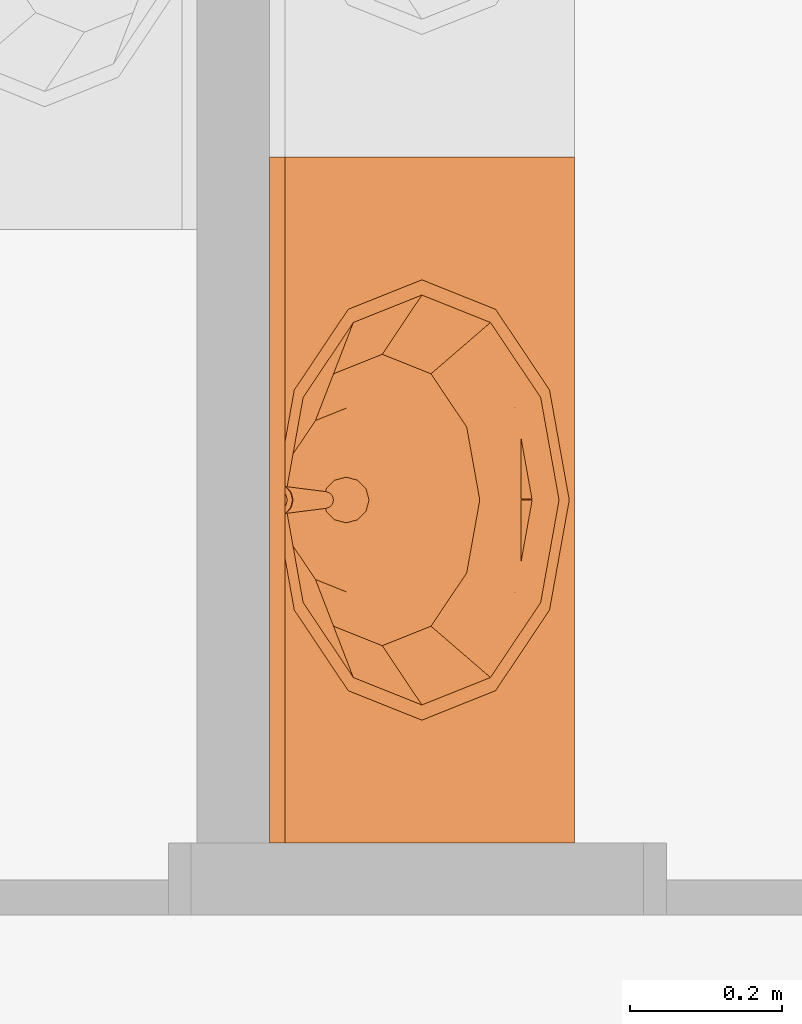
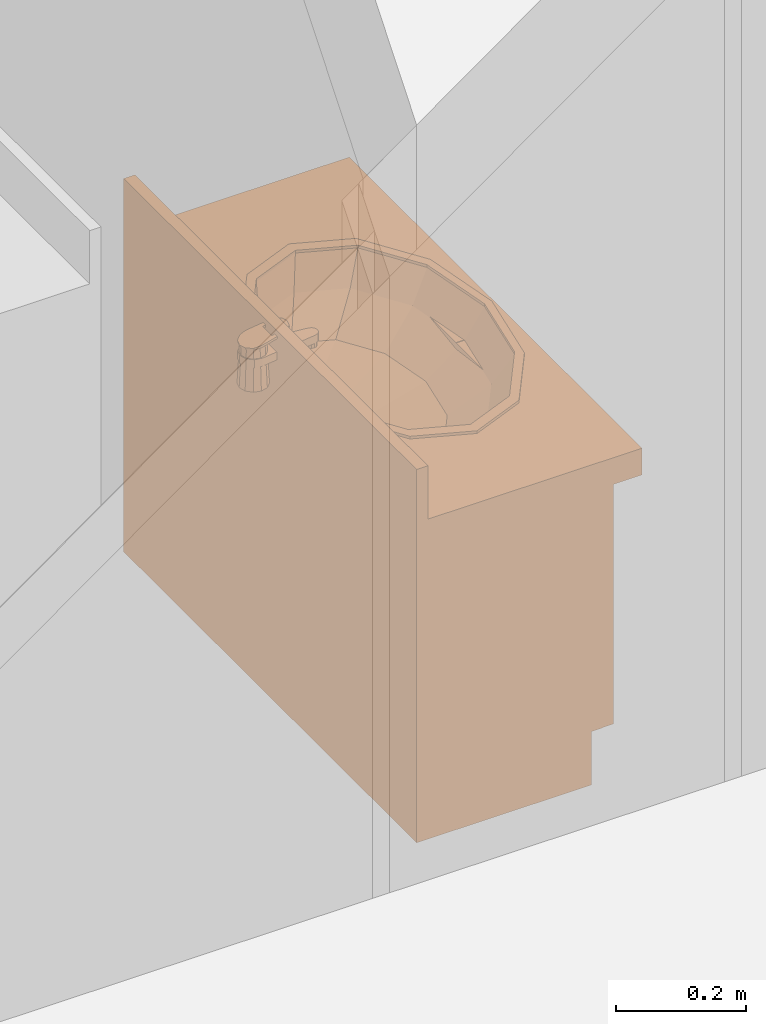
# One storey, part 11 of 14: 1 proxy.
"""IFC2X3 building model written with IfcOpenShell, lengths in millimetres."""

from ifc_helpers import new_model, entity, si_unit, converted_unit, direction, frame, origin_with_axes, place, context, project, spatial, open_shell, faceted_brep, surface_model, material, element, save


model = new_model("IFC2X3")

# Units and contexts
model_context = context("Model", 3, precision=1e-05, world=origin_with_axes(), true_north=direction((0.0, 1.0)))
ifc_project = project(units=[si_unit("LENGTHUNIT", "METRE", prefix="MILLI"), si_unit("AREAUNIT", "SQUARE_METRE"), si_unit("VOLUMEUNIT", "CUBIC_METRE"), converted_unit("PLANEANGLEUNIT", "DEGREE", entity("IfcPlaneAngleMeasure", 0.017453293), si_unit("PLANEANGLEUNIT", "RADIAN"), dimensions=[0, 0, 0, 0, 0, 0, 0]), si_unit("SOLIDANGLEUNIT", "STERADIAN"), si_unit("MASSUNIT", "GRAM"), si_unit("TIMEUNIT", "SECOND"), si_unit("THERMODYNAMICTEMPERATUREUNIT", "DEGREE_CELSIUS"), si_unit("LUMINOUSINTENSITYUNIT", "LUMEN")], contexts=[model_context])

# Site, building, storey
site_placement = place(None, origin_with_axes())
site = spatial("IfcSite", under=ifc_project, at=site_placement, Name="\x83T\x83C\x83g", CompositionType="ELEMENT")
building_placement = place(site_placement, origin_with_axes())
building = spatial("IfcBuilding", under=site, at=building_placement, Name="Daitec-Sample 201208", CompositionType="ELEMENT")
storey_placement = place(building_placement, frame((0.0, 0.0, 4000.0), z_axis=(0.0, 0.0, 1.0), x_axis=(1.0, 0.0, 0.0)))
storey = spatial("IfcBuildingStorey", under=building, at=storey_placement, Name="2F", CompositionType="ELEMENT", Elevation=4000.0)

# Proxy
ifc_material = material(Name="\x94w\x8ci")
proxy_placement = place(storey_placement, frame((21445.071, 21395.126, 0.0), z_axis=(0.0, 0.0, 1.0), x_axis=(0.0, 1.0, 0.0)))
element("IfcBuildingElementProxy", 1, at=proxy_placement, inside=storey, material=ifc_material, Name="O2", context=model_context, shape_type="Brep", body=[
    faceted_brep([(0.0, 90.0, 0.0), (0.0, 90.0, 100.0), (-900.0, 90.0, 100.0), (-900.0, 90.0, 0.0), (0.0, 400.0, 0.0), (0.0, 400.0, 100.0), (-900.0, 400.0, 100.0), (-900.0, 400.0, 0.0)], [[[0, 1, 2, 3]], [[4, 5, 1, 0]], [[1, 5, 6, 2]], [[3, 2, 6, 7]], [[0, 3, 7, 4]], [[7, 6, 5, 4]]]),
    faceted_brep([(0.0, 70.0, 100.0), (0.0, 70.0, 120.0), (-20.0, 70.0, 120.0), (-20.0, 70.0, 100.0), (0.0, 400.0, 100.0), (0.0, 400.0, 120.0), (-20.0, 400.0, 120.0), (-880.0, 400.0, 120.0), (-900.0, 400.0, 120.0), (-900.0, 70.0, 120.0), (-880.0, 70.0, 120.0), (-880.0, 70.0, 100.0), (-900.0, 70.0, 100.0), (-900.0, 400.0, 100.0), (-880.0, 400.0, 100.0), (-20.0, 400.0, 100.0)], [[[0, 1, 2, 3]], [[4, 5, 1, 0]], [[1, 5, 6, 7, 8, 9, 10, 2]], [[3, 2, 10, 11]], [[0, 3, 11, 12, 13, 14, 15, 4]], [[15, 6, 5, 4]], [[14, 7, 6, 15]], [[13, 8, 7, 14]], [[12, 9, 8, 13]], [[11, 10, 9, 12]]]),
    faceted_brep([(0.0, 70.0, 120.0), (0.0, 70.0, 550.0), (-20.0, 70.0, 550.0), (-20.0, 70.0, 120.0), (0.0, 400.0, 120.0), (0.0, 400.0, 550.0), (-900.0, 400.0, 550.0), (-900.0, 70.0, 550.0), (-880.0, 70.0, 550.0), (-880.0, 380.0, 550.0), (-20.0, 380.0, 550.0), (-20.0, 380.0, 120.0), (-880.0, 380.0, 120.0), (-880.0, 70.0, 120.0), (-900.0, 70.0, 120.0), (-900.0, 400.0, 120.0)], [[[0, 1, 2, 3]], [[4, 5, 1, 0]], [[1, 5, 6, 7, 8, 9, 10, 2]], [[3, 2, 10, 11]], [[0, 3, 11, 12, 13, 14, 15, 4]], [[15, 6, 5, 4]], [[14, 7, 6, 15]], [[13, 8, 7, 14]], [[12, 9, 8, 13]], [[11, 10, 9, 12]]]),
    faceted_brep([(-880.0, 70.0, 223.33333), (-880.0, 70.0, 243.33333), (-880.0, 380.0, 243.33333), (-880.0, 380.0, 223.33333), (-20.0, 70.0, 223.33333), (-20.0, 70.0, 243.33333), (-20.0, 380.0, 243.33333), (-20.0, 380.0, 223.33333)], [[[0, 1, 2, 3]], [[4, 5, 1, 0]], [[1, 5, 6, 2]], [[3, 2, 6, 7]], [[0, 3, 7, 4]], [[7, 6, 5, 4]]]),
    faceted_brep([(-880.0, 70.0, 366.66667), (-880.0, 70.0, 386.66667), (-880.0, 380.0, 386.66667), (-880.0, 380.0, 366.66667), (-20.0, 70.0, 366.66667), (-20.0, 70.0, 386.66667), (-20.0, 380.0, 386.66667), (-20.0, 380.0, 366.66667)], [[[0, 1, 2, 3]], [[4, 5, 1, 0]], [[1, 5, 6, 2]], [[3, 2, 6, 7]], [[0, 3, 7, 4]], [[7, 6, 5, 4]]]),
    faceted_brep([(0.0, 400.0, 550.0), (0.0, 0.0, 550.0), (-900.0, 0.0, 550.0), (-900.0, 400.0, 550.0), (-683.82686, 110.0, 550.0), (-585.0, 44.115427, 550.0), (-450.0, 20.0, 550.0), (-315.0, 44.115427, 550.0), (-216.17314, 110.0, 550.0), (-180.0, 200.0, 550.0), (-216.17314, 290.0, 550.0), (-315.0, 355.88457, 550.0), (-450.0, 380.0, 550.0), (-585.0, 355.88457, 550.0), (-683.82686, 290.0, 550.0), (-720.0, 200.0, 550.0), (0.0, 400.0, 600.0), (0.0, 0.0, 600.0), (-900.0, 0.0, 600.0), (-900.0, 400.0, 600.0), (-683.82686, 110.0, 600.0), (-585.0, 44.115427, 600.0), (-450.0, 20.0, 600.0), (-315.0, 44.115427, 600.0), (-216.17314, 110.0, 600.0), (-180.0, 200.0, 600.0), (-216.17314, 290.0, 600.0), (-315.0, 355.88457, 600.0), (-450.0, 380.0, 600.0), (-585.0, 355.88457, 600.0), (-683.82686, 290.0, 600.0), (-720.0, 200.0, 600.0)], [[[0, 1, 2, 3], [4, 5, 6, 7, 8, 9, 10, 11, 12, 13, 14, 15]], [[1, 0, 16, 17]], [[2, 1, 17, 18]], [[3, 2, 18, 19]], [[0, 3, 19, 16]], [[20, 21, 5, 4]], [[21, 22, 6, 5]], [[22, 23, 7, 6]], [[23, 24, 8, 7]], [[24, 25, 9, 8]], [[25, 26, 10, 9]], [[26, 27, 11, 10]], [[27, 28, 12, 11]], [[28, 29, 13, 12]], [[29, 30, 14, 13]], [[30, 31, 15, 14]], [[31, 20, 4, 15]], [[18, 17, 16, 19], [24, 23, 22, 21, 20, 31, 30, 29, 28, 27, 26, 25]]]),
    faceted_brep([(0.0, 380.0, 600.0), (0.0, 380.0, 700.0), (-900.0, 380.0, 700.0), (-900.0, 380.0, 600.0), (0.0, 400.0, 600.0), (0.0, 400.0, 700.0), (-900.0, 400.0, 700.0), (-900.0, 400.0, 600.0)], [[[0, 1, 2, 3]], [[4, 5, 1, 0]], [[1, 5, 6, 2]], [[3, 2, 6, 7]], [[0, 3, 7, 4]], [[7, 6, 5, 4]]]),
    faceted_brep([(-739.0, 200.0, 605.0), (-700.28134, 296.69145, 605.0), (-700.28134, 296.69145, 600.0), (-739.0, 200.0, 600.0), (-700.28134, 103.30855, 605.0), (-594.5, 32.525496, 605.0), (-450.0, 6.6171004, 605.0), (-305.5, 32.525496, 605.0), (-199.71866, 103.30855, 605.0), (-161.0, 200.0, 605.0), (-199.71866, 296.69145, 605.0), (-305.5, 367.4745, 605.0), (-450.0, 393.3829, 605.0), (-594.5, 367.4745, 605.0), (-719.0, 200.0, 605.0), (-682.96083, 290.0, 605.0), (-584.5, 355.88457, 605.0), (-450.0, 380.0, 605.0), (-315.5, 355.88457, 605.0), (-217.03917, 290.0, 605.0), (-181.0, 200.0, 605.0), (-217.03917, 110.0, 605.0), (-315.5, 44.115427, 605.0), (-450.0, 20.0, 605.0), (-584.5, 44.115427, 605.0), (-682.96083, 110.0, 605.0), (-594.5, 367.4745, 600.0), (-450.0, 393.3829, 600.0), (-305.5, 367.4745, 600.0), (-199.71866, 296.69145, 600.0), (-161.0, 200.0, 600.0), (-199.71866, 103.30855, 600.0), (-305.5, 32.525496, 600.0), (-450.0, 6.6171004, 600.0), (-594.5, 32.525496, 600.0), (-700.28134, 103.30855, 600.0), (-719.0, 200.0, 600.0), (-682.96083, 110.0, 600.0), (-584.5, 44.115427, 600.0), (-450.0, 20.0, 600.0), (-315.5, 44.115427, 600.0), (-217.03917, 110.0, 600.0), (-181.0, 200.0, 600.0), (-217.03917, 290.0, 600.0), (-315.5, 355.88457, 600.0), (-450.0, 380.0, 600.0), (-584.5, 355.88457, 600.0), (-682.96083, 290.0, 600.0)], [[[0, 1, 2, 3]], [[0, 4, 5, 6, 7, 8, 9, 10, 11, 12, 13, 1], [14, 15, 16, 17, 18, 19, 20, 21, 22, 23, 24, 25]], [[1, 13, 26, 2]], [[3, 2, 26, 27, 28, 29, 30, 31, 32, 33, 34, 35], [36, 37, 38, 39, 40, 41, 42, 43, 44, 45, 46, 47]], [[4, 0, 3, 35]], [[5, 4, 35, 34]], [[6, 5, 34, 33]], [[7, 6, 33, 32]], [[8, 7, 32, 31]], [[9, 8, 31, 30]], [[10, 9, 30, 29]], [[11, 10, 29, 28]], [[12, 11, 28, 27]], [[13, 12, 27, 26]], [[15, 14, 36, 47]], [[16, 15, 47, 46]], [[17, 16, 46, 45]], [[18, 17, 45, 44]], [[19, 18, 44, 43]], [[20, 19, 43, 42]], [[21, 20, 42, 41]], [[22, 21, 41, 40]], [[23, 22, 40, 39]], [[24, 23, 39, 38]], [[25, 24, 38, 37]], [[14, 25, 37, 36]]]),
    surface_model("IfcShellBasedSurfaceModel", [(-450.0, 380.0, 600.0), (-584.5, 355.88457, 600.0), (-571.05, 358.29612, 548.0), (-450.0, 380.0, 548.0), (-682.96083, 290.0, 600.0), (-659.66475, 299.0, 548.0), (-315.5, 355.88457, 600.0), (-328.95, 358.29612, 548.0), (-719.0, 200.0, 600.0), (-692.1, 218.0, 548.0), (-217.03917, 290.0, 600.0), (-240.33525, 299.0, 548.0), (-682.96083, 110.0, 600.0), (-659.66475, 137.0, 548.0), (-181.0, 200.0, 600.0), (-207.9, 218.0, 548.0), (-584.5, 44.115427, 600.0), (-571.05, 77.703885, 548.0), (-217.03917, 110.0, 600.0), (-240.33525, 137.0, 548.0), (-450.0, 20.0, 600.0), (-450.0, 56.0, 548.0), (-315.5, 44.115427, 600.0), (-328.95, 77.703885, 548.0)], [open_shell([[[0, 1, 2, 3]], [[1, 4, 5, 2]], [[6, 0, 3, 7]], [[4, 8, 9, 5]], [[10, 6, 7, 11]], [[8, 12, 13, 9]], [[14, 10, 11, 15]], [[12, 16, 17, 13]], [[18, 14, 15, 19]], [[16, 20, 21, 17]], [[22, 18, 19, 23]], [[20, 22, 23, 21]]])]),
    surface_model("IfcShellBasedSurfaceModel", [(-450.0, 380.0, 548.0), (-571.05, 358.29612, 548.0), (-545.6295, 362.85393, 496.0), (-450.0, 380.0, 496.0), (-659.66475, 299.0, 548.0), (-615.63515, 316.01, 496.0), (-328.95, 358.29612, 548.0), (-354.3705, 362.85393, 496.0), (-692.1, 218.0, 548.0), (-641.259, 252.02, 496.0), (-240.33525, 299.0, 548.0), (-284.36485, 316.01, 496.0), (-659.66475, 137.0, 548.0), (-615.63515, 188.03, 496.0), (-207.9, 218.0, 548.0), (-258.741, 252.02, 496.0), (-571.05, 77.703885, 548.0), (-545.6295, 141.18607, 496.0), (-240.33525, 137.0, 548.0), (-284.36485, 188.03, 496.0), (-450.0, 56.0, 548.0), (-450.0, 124.04, 496.0), (-328.95, 77.703885, 548.0), (-354.3705, 141.18607, 496.0)], [open_shell([[[0, 1, 2, 3]], [[1, 4, 5, 2]], [[6, 0, 3, 7]], [[4, 8, 9, 5]], [[10, 6, 7, 11]], [[8, 12, 13, 9]], [[14, 10, 11, 15]], [[12, 16, 17, 13]], [[18, 14, 15, 19]], [[16, 20, 21, 17]], [[22, 18, 19, 23]], [[20, 22, 23, 21]]])]),
    surface_model("IfcShellBasedSurfaceModel", [(-450.0, 380.0, 496.0), (-545.6295, 362.85393, 496.0), (-510.24659, 369.19798, 470.0), (-450.0, 380.0, 470.0), (-615.63515, 316.01, 496.0), (-554.35015, 339.6863, 470.0), (-354.3705, 362.85393, 496.0), (-389.75341, 369.19798, 470.0), (-641.259, 252.02, 496.0), (-570.49317, 299.3726, 470.0), (-284.36485, 316.01, 496.0), (-345.64985, 339.6863, 470.0), (-615.63515, 188.03, 496.0), (-554.35015, 259.0589, 470.0), (-258.741, 252.02, 496.0), (-329.50683, 299.3726, 470.0), (-545.6295, 141.18607, 496.0), (-510.24659, 229.54722, 470.0), (-284.36485, 188.03, 496.0), (-345.64985, 259.0589, 470.0), (-450.0, 124.04, 496.0), (-450.0, 218.7452, 470.0), (-354.3705, 141.18607, 496.0), (-389.75341, 229.54722, 470.0)], [open_shell([[[0, 1, 2, 3]], [[1, 4, 5, 2]], [[6, 0, 3, 7]], [[4, 8, 9, 5]], [[10, 6, 7, 11]], [[8, 12, 13, 9]], [[14, 10, 11, 15]], [[12, 16, 17, 13]], [[18, 14, 15, 19]], [[16, 20, 21, 17]], [[22, 18, 19, 23]], [[20, 22, 23, 21]]])]),
    surface_model("IfcShellBasedSurfaceModel", [(-450.0, 380.0, 470.0), (-510.24659, 369.19798, 470.0), (-465.0, 325.35336, 463.0), (-475.98076, 314.3726, 463.0), (-450.0, 329.3726, 463.0), (-554.35015, 339.6863, 470.0), (-389.75341, 369.19798, 470.0), (-480.0, 299.3726, 463.0), (-435.0, 325.35336, 463.0), (-570.49317, 299.3726, 470.0), (-345.64985, 339.6863, 470.0), (-475.98076, 284.3726, 463.0), (-424.01924, 314.3726, 463.0), (-554.35015, 259.0589, 470.0), (-329.50683, 299.3726, 470.0), (-465.0, 273.39184, 463.0), (-420.0, 299.3726, 463.0), (-510.24659, 229.54722, 470.0), (-345.64985, 259.0589, 470.0), (-450.0, 269.3726, 463.0), (-424.01924, 284.3726, 463.0), (-450.0, 218.7452, 470.0), (-389.75341, 229.54722, 470.0), (-435.0, 273.39184, 463.0)], [open_shell([[[0, 1, 2]], [[1, 3, 2]], [[0, 2, 4]], [[1, 5, 3]], [[6, 0, 4]], [[5, 7, 3]], [[6, 4, 8]], [[5, 9, 7]], [[10, 6, 8]], [[9, 11, 7]], [[10, 8, 12]], [[9, 13, 11]], [[14, 10, 12]], [[13, 15, 11]], [[14, 12, 16]], [[13, 17, 15]], [[18, 14, 16]], [[17, 19, 15]], [[18, 16, 20]], [[17, 21, 19]], [[22, 18, 20]], [[21, 23, 19]], [[22, 20, 23]], [[21, 22, 23]]])]),
    surface_model("IfcShellBasedSurfaceModel", [(-480.0, 299.3726, 463.0), (-475.98076, 314.3726, 463.0), (-475.98076, 314.3726, 458.0), (-480.0, 299.3726, 458.0), (-465.0, 325.35336, 463.0), (-465.0, 325.35336, 458.0), (-450.0, 329.3726, 458.0), (-435.0, 325.35336, 458.0), (-424.01924, 314.3726, 458.0), (-420.0, 299.3726, 458.0), (-424.01924, 284.3726, 458.0), (-435.0, 273.39184, 458.0), (-450.0, 269.3726, 458.0), (-465.0, 273.39184, 458.0), (-475.98076, 284.3726, 458.0), (-475.98076, 284.3726, 463.0), (-450.0, 329.3726, 463.0), (-435.0, 325.35336, 463.0), (-424.01924, 314.3726, 463.0), (-420.0, 299.3726, 463.0), (-424.01924, 284.3726, 463.0), (-435.0, 273.39184, 463.0), (-450.0, 269.3726, 463.0), (-465.0, 273.39184, 463.0)], [open_shell([[[0, 1, 2, 3]], [[1, 4, 5, 2]], [[3, 2, 5, 6, 7, 8, 9, 10, 11, 12, 13, 14]], [[15, 0, 3, 14]], [[4, 16, 6, 5]], [[16, 17, 7, 6]], [[17, 18, 8, 7]], [[18, 19, 9, 8]], [[19, 20, 10, 9]], [[20, 21, 11, 10]], [[21, 22, 12, 11]], [[22, 23, 13, 12]], [[23, 15, 14, 13]]])]),
    faceted_brep([(-462.5, 451.65064, 600.0), (-460.58732, 448.33778, 676.50709), (-450.0, 451.20192, 675.96154), (-450.0, 455.0, 600.0), (-471.65064, 442.5, 600.0), (-468.27355, 440.55024, 677.99043), (-471.0, 430.0, 680.0), (-468.10034, 419.54976, 681.99052), (-460.41411, 411.96224, 683.43576), (-450.0, 409.19811, 683.96226), (-439.58589, 411.96224, 683.43576), (-431.89966, 419.54976, 681.99052), (-429.0, 430.0, 680.0), (-431.72645, 440.55024, 677.99043), (-439.41268, 448.33778, 676.50709), (-437.5, 451.65064, 600.0), (-428.34936, 442.5, 600.0), (-425.0, 430.0, 600.0), (-428.34936, 417.5, 600.0), (-437.5, 408.34936, 600.0), (-450.0, 405.0, 600.0), (-462.5, 408.34936, 600.0), (-471.65064, 417.5, 600.0), (-475.0, 430.0, 600.0)], [[[0, 1, 2, 3]], [[4, 5, 1, 0]], [[1, 5, 6, 7, 8, 9, 10, 11, 12, 13, 14, 2]], [[3, 2, 14, 15]], [[0, 3, 15, 16, 17, 18, 19, 20, 21, 22, 23, 4]], [[23, 6, 5, 4]], [[22, 7, 6, 23]], [[21, 8, 7, 22]], [[20, 9, 8, 21]], [[19, 10, 9, 20]], [[18, 11, 10, 19]], [[17, 12, 11, 18]], [[16, 13, 12, 17]], [[15, 14, 13, 16]]]),
    faceted_brep([(-459.0, 327.0, 635.0), (-459.0, 327.0, 645.0), (-457.79423, 331.5, 645.0), (-457.79423, 331.5, 635.0), (-457.79423, 322.5, 635.0), (-457.79423, 322.5, 645.0), (-454.5, 319.20577, 645.0), (-450.0, 318.0, 645.0), (-445.5, 319.20577, 645.0), (-442.20577, 322.5, 645.0), (-441.0, 327.0, 645.0), (-442.20577, 331.5, 645.0), (-445.5, 334.79423, 645.0), (-450.0, 336.0, 645.0), (-454.5, 334.79423, 645.0), (-454.5, 334.79423, 635.0), (-450.0, 336.0, 635.0), (-445.5, 334.79423, 635.0), (-442.20577, 331.5, 635.0), (-441.0, 327.0, 635.0), (-442.20577, 322.5, 635.0), (-445.5, 319.20577, 635.0), (-450.0, 318.0, 635.0), (-454.5, 319.20577, 635.0)], [[[0, 1, 2, 3]], [[4, 5, 1, 0]], [[1, 5, 6, 7, 8, 9, 10, 11, 12, 13, 14, 2]], [[3, 2, 14, 15]], [[0, 3, 15, 16, 17, 18, 19, 20, 21, 22, 23, 4]], [[23, 6, 5, 4]], [[22, 7, 6, 23]], [[21, 8, 7, 22]], [[20, 9, 8, 21]], [[19, 10, 9, 20]], [[18, 11, 10, 19]], [[17, 12, 11, 18]], [[16, 13, 12, 17]], [[15, 14, 13, 16]]]),
    faceted_brep([(-440.97112, 320.71681, 660.0), (-439.08801, 325.61163, 660.0), (-426.1946, 426.9501, 660.0), (-428.27219, 440.19321, 660.0), (-437.12828, 450.2563, 660.0), (-450.0, 453.99998, 660.0), (-462.87172, 450.2563, 660.0), (-471.72781, 440.1932, 660.0), (-473.8054, 426.9501, 660.0), (-460.912, 325.6117, 660.0), (-459.02892, 320.71687, 660.0), (-455.09339, 317.25031, 660.0), (-450.00004, 316.00004, 660.0), (-444.90668, 317.25027, 660.0), (-430.94744, 419.0, 660.0), (-439.0, 410.94744, 660.0), (-450.0, 408.0, 660.0), (-461.0, 410.94744, 660.0), (-469.05256, 419.0, 660.0), (-472.0, 430.0, 660.0), (-469.05256, 441.0, 660.0), (-461.0, 449.05256, 660.0), (-450.0, 452.0, 660.0), (-439.0, 449.05256, 660.0), (-430.94744, 441.0, 660.0), (-428.0, 430.0, 660.0), (-440.97112, 320.71681, 645.0), (-439.08801, 325.61163, 645.0), (-426.1946, 426.9501, 645.0), (-428.27219, 440.19321, 645.0), (-437.12828, 450.2563, 645.0), (-450.0, 453.99998, 645.0), (-462.87172, 450.2563, 645.0), (-471.72781, 440.1932, 645.0), (-473.8054, 426.9501, 645.0), (-460.912, 325.6117, 645.0), (-459.02892, 320.71687, 645.0), (-455.09339, 317.25031, 645.0), (-450.00004, 316.00004, 645.0), (-444.90668, 317.25027, 645.0), (-430.29792, 418.625, 645.0), (-438.625, 410.29792, 645.0), (-450.0, 407.25, 645.0), (-461.375, 410.29792, 645.0), (-469.70208, 418.625, 645.0), (-472.75, 430.0, 645.0), (-469.70208, 441.375, 645.0), (-461.375, 449.70208, 645.0), (-450.0, 452.75, 645.0), (-438.625, 449.70208, 645.0), (-430.29792, 441.375, 645.0), (-427.25, 430.0, 645.0)], [[[0, 1, 2, 3, 4, 5, 6, 7, 8, 9, 10, 11, 12, 13], [14, 15, 16, 17, 18, 19, 20, 21, 22, 23, 24, 25]], [[26, 27, 1, 0]], [[27, 28, 2, 1]], [[28, 29, 3, 2]], [[29, 30, 4, 3]], [[30, 31, 5, 4]], [[31, 32, 6, 5]], [[32, 33, 7, 6]], [[33, 34, 8, 7]], [[34, 35, 9, 8]], [[35, 36, 10, 9]], [[36, 37, 11, 10]], [[37, 38, 12, 11]], [[38, 39, 13, 12]], [[39, 26, 0, 13]], [[40, 41, 15, 14]], [[41, 42, 16, 15]], [[42, 43, 17, 16]], [[43, 44, 18, 17]], [[44, 45, 19, 18]], [[20, 19, 45, 46]], [[21, 20, 46, 47]], [[22, 21, 47, 48]], [[23, 22, 48, 49]], [[24, 23, 49, 50]], [[50, 51, 25, 24]], [[51, 40, 14, 25]], [[28, 27, 26, 39, 38, 37, 36, 35, 34, 33, 32, 31, 30, 29], [44, 43, 42, 41, 40, 51, 50, 49, 48, 47, 46, 45]]]),
    faceted_brep([(-473.893, 428.30743, 680.32239), (-473.893, 429.05588, 684.25175), (-471.29642, 441.52317, 681.87703), (-471.29642, 440.77472, 677.94767), (-470.94594, 388.1633, 687.9689), (-470.94594, 388.91175, 691.89825), (-467.66314, 379.23408, 693.74161), (-460.06144, 372.2847, 695.06531), (-449.99956, 369.76284, 695.54566), (-439.93779, 372.28512, 695.06523), (-432.33638, 379.23481, 693.74148), (-429.054, 388.91261, 691.89808), (-426.10698, 429.05616, 684.2517), (-428.70371, 441.52342, 681.87698), (-437.52832, 450.83965, 680.10246), (-450.00014, 454.28041, 679.44708), (-462.47192, 450.8395, 680.10249), (-464.0, 405.20765, 688.79427), (-436.0, 405.20765, 688.79427), (-436.0, 390.39202, 691.61629), (-437.87564, 383.51565, 692.92608), (-443.0, 378.48179, 693.88491), (-450.0, 376.63928, 694.23586), (-457.0, 378.48179, 693.88491), (-462.12436, 383.51565, 692.92608), (-464.0, 390.39202, 691.61629), (-462.47192, 450.09105, 676.17313), (-450.00014, 453.53196, 675.51772), (-437.52832, 450.0912, 676.17311), (-428.70371, 440.77497, 677.94763), (-426.10698, 428.30771, 680.32234), (-429.054, 388.16417, 687.96873), (-432.33638, 378.48636, 689.81212), (-439.93779, 371.53667, 691.13587), (-449.99956, 369.01439, 691.61631), (-460.06144, 371.53625, 691.13595), (-467.66314, 378.48563, 689.81226), (-464.0, 404.4592, 684.86491), (-464.0, 389.64357, 687.68694), (-462.12436, 382.7672, 688.99672), (-457.0, 377.73334, 689.95555), (-450.0, 375.89083, 690.30651), (-443.0, 377.73334, 689.95555), (-437.87564, 382.7672, 688.99672), (-436.0, 389.64357, 687.68694), (-436.0, 404.4592, 684.86491)], [[[0, 1, 2, 3]], [[4, 5, 1, 0]], [[1, 5, 6, 7, 8, 9, 10, 11, 12, 13, 14, 15, 16, 2], [17, 18, 19, 20, 21, 22, 23, 24, 25]], [[3, 2, 16, 26]], [[0, 3, 26, 27, 28, 29, 30, 31, 32, 33, 34, 35, 36, 4], [37, 38, 39, 40, 41, 42, 43, 44, 45]], [[36, 6, 5, 4]], [[35, 7, 6, 36]], [[34, 8, 7, 35]], [[33, 9, 8, 34]], [[32, 10, 9, 33]], [[31, 11, 10, 32]], [[30, 12, 11, 31]], [[29, 13, 12, 30]], [[28, 14, 13, 29]], [[27, 15, 14, 28]], [[26, 16, 15, 27]], [[45, 18, 17, 37]], [[44, 19, 18, 45]], [[43, 20, 19, 44]], [[42, 21, 20, 43]], [[41, 22, 21, 42]], [[40, 23, 22, 41]], [[39, 24, 23, 40]], [[38, 25, 24, 39]], [[37, 17, 25, 38]]]),
    faceted_brep([(0.0, 70.0, 100.0), (0.0, 50.0, 100.0), (-449.0, 50.0, 100.0), (-449.0, 70.0, 100.0), (0.0, 70.0, 549.0), (0.0, 50.0, 549.0), (-449.0, 50.0, 549.0), (-449.0, 70.0, 549.0)], [[[0, 1, 2, 3]], [[4, 5, 1, 0]], [[1, 5, 6, 2]], [[3, 2, 6, 7]], [[0, 3, 7, 4]], [[7, 6, 5, 4]]]),
    faceted_brep([(-409.3923, 50.0, 484.0), (-411.0, 50.0, 490.0), (-409.3923, 50.0, 496.0), (-405.0, 50.0, 500.3923), (-399.0, 50.0, 502.0), (-393.0, 50.0, 500.3923), (-388.6077, 50.0, 496.0), (-387.0, 50.0, 490.0), (-388.6077, 50.0, 484.0), (-393.0, 50.0, 479.6077), (-399.0, 50.0, 478.0), (-405.0, 50.0, 479.6077), (-409.3923, 25.0, 484.0), (-411.0, 25.0, 490.0), (-409.3923, 25.0, 496.0), (-405.0, 25.0, 500.3923), (-399.0, 25.0, 502.0), (-393.0, 25.0, 500.3923), (-388.6077, 25.0, 496.0), (-387.0, 25.0, 490.0), (-388.6077, 25.0, 484.0), (-393.0, 25.0, 479.6077), (-399.0, 25.0, 478.0), (-405.0, 25.0, 479.6077)], [[[0, 1, 2, 3, 4, 5, 6, 7, 8, 9, 10, 11]], [[0, 12, 13, 1]], [[1, 13, 14, 2]], [[2, 14, 15, 3]], [[3, 15, 16, 4]], [[4, 16, 17, 5]], [[5, 17, 18, 6]], [[6, 18, 19, 7]], [[7, 19, 20, 8]], [[8, 20, 21, 9]], [[9, 21, 22, 10]], [[10, 22, 23, 11]], [[11, 23, 12, 0]], [[12, 23, 22, 21, 20, 19, 18, 17, 16, 15, 14, 13]]]),
    faceted_brep([(-899.0, 70.0, 100.0), (-450.0, 70.0, 100.0), (-450.0, 50.0, 100.0), (-899.0, 50.0, 100.0), (-899.0, 70.0, 549.0), (-450.0, 70.0, 549.0), (-450.0, 50.0, 549.0), (-899.0, 50.0, 549.0)], [[[0, 1, 2, 3]], [[0, 4, 5, 1]], [[1, 5, 6, 2]], [[3, 2, 6, 7]], [[4, 0, 3, 7]], [[5, 4, 7, 6]]]),
    faceted_brep([(-489.6077, 50.0, 484.0), (-494.0, 50.0, 479.6077), (-500.0, 50.0, 478.0), (-506.0, 50.0, 479.6077), (-510.3923, 50.0, 484.0), (-512.0, 50.0, 490.0), (-510.3923, 50.0, 496.0), (-506.0, 50.0, 500.3923), (-500.0, 50.0, 502.0), (-494.0, 50.0, 500.3923), (-489.6077, 50.0, 496.0), (-488.0, 50.0, 490.0), (-489.6077, 25.0, 484.0), (-494.0, 25.0, 479.6077), (-500.0, 25.0, 478.0), (-506.0, 25.0, 479.6077), (-510.3923, 25.0, 484.0), (-512.0, 25.0, 490.0), (-510.3923, 25.0, 496.0), (-506.0, 25.0, 500.3923), (-500.0, 25.0, 502.0), (-494.0, 25.0, 500.3923), (-489.6077, 25.0, 496.0), (-488.0, 25.0, 490.0)], [[[0, 1, 2, 3, 4, 5, 6, 7, 8, 9, 10, 11]], [[1, 0, 12, 13]], [[2, 1, 13, 14]], [[3, 2, 14, 15]], [[4, 3, 15, 16]], [[5, 4, 16, 17]], [[6, 5, 17, 18]], [[7, 6, 18, 19]], [[8, 7, 19, 20]], [[9, 8, 20, 21]], [[10, 9, 21, 22]], [[11, 10, 22, 23]], [[0, 11, 23, 12]], [[12, 23, 22, 21, 20, 19, 18, 17, 16, 15, 14, 13]]]),
])

save(model, "model.ifc")
